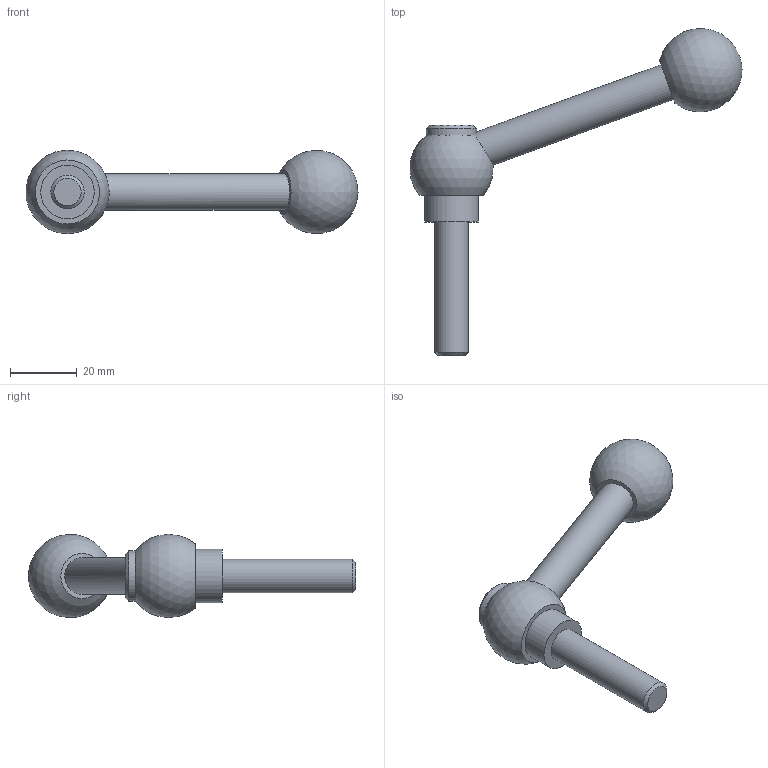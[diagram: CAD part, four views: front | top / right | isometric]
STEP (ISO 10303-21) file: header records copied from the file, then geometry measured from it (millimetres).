
FILE_DESCRIPTION( ( 'STEP AP203' ), '1' );
FILE_NAME( 'C:/Temp/Ganter_Step_05_03_2020/data/2_1/gn_6337_3/gn_6337_3_ms/gn_6337_3_ms_n/Adjustable clamping lever with bolt GN 6337.3-25-M10-40-N.stp', '2020-03-05T11:41:18', ( 'License CC BY-ND 4.0' ), ( 'CADENAS' ), ' ', 'PARTsolutions', ' ' );
FILE_SCHEMA( ( 'CONFIG_CONTROL_DESIGN' ) );
Length unit declared in the file: millimetre
Products named in the file (1): _Adjustable clamping lever with bolt GN 6337.3-25-M10-40-N
Bounding box: 99.42 x 97.98 x 25 mm (x, y, z)
Volume: 26035.9 mm3; surface area: 7409.8 mm2
Topology: 1 solids, 1 shells, 13 faces, 27 edges, 18 vertices
Faces by surface type: plane 5, cylinder 4, cone 2, sphere 2
Full cylindrical faces by diameter (mm): 10 x1, 11 x1, 15 x1, 16 x1
Entity records: 374 total; most frequent: CARTESIAN_POINT 112, DIRECTION 50, ORIENTED_EDGE 26, AXIS2_PLACEMENT_3D 25, EDGE_LOOP 23, FACE_OUTER_BOUND 18, ADVANCED_FACE 13, VERTEX_POINT 13
